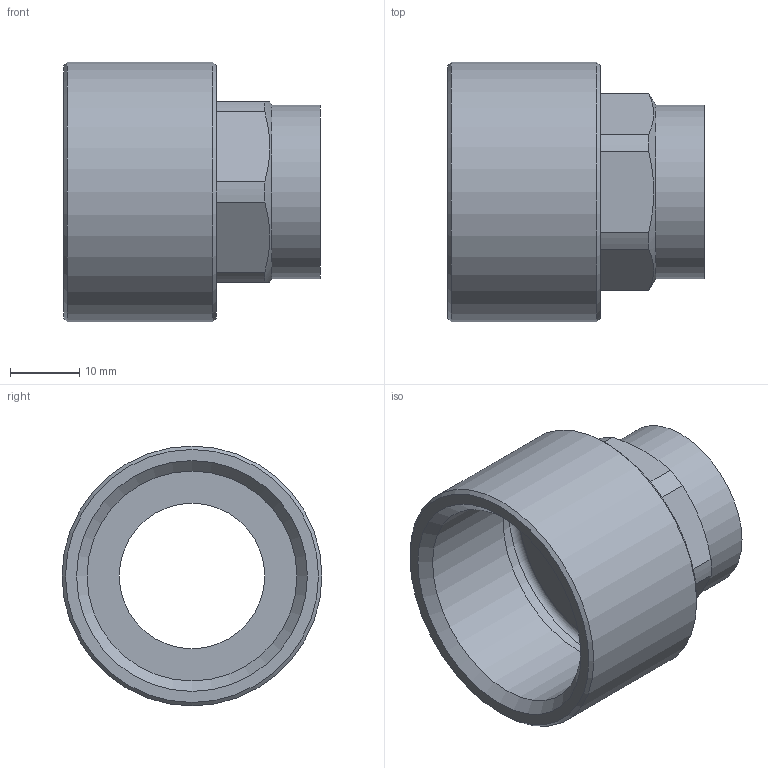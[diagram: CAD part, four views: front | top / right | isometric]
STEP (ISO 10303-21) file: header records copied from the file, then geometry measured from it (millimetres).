
FILE_DESCRIPTION((''),'2;1');
FILE_NAME('C:\Documents and Settings\pajchrowski\Desktop\STEP\14270_22-1(2).stp','2009-02-02T13:18:09',('pajchrowski'),(''),'Autodesk Inventor 2009','Autodesk Inventor 2009','');
FILE_SCHEMA(('AUTOMOTIVE_DESIGN { 1 0 10303 214 1 1 1 1 }'));
Length unit declared in the file: millimetre
Products named in the file (1): 14270_22-1(2)
Bounding box: 37 x 37.5 x 37.5 mm (x, y, z)
Volume: 11095.2 mm3; surface area: 8443.1 mm2
Topology: 1 solids, 1 shells, 29 faces, 65 edges, 41 vertices
Faces by surface type: cylinder 12, plane 11, cone 5, torus 1
Full cylindrical faces by diameter (mm): 21 x1, 22 x1, 25 x1, 30.291 x1, 33.249 x1, 37.5 x1
Entity records: 766 total; most frequent: CARTESIAN_POINT 134, DIRECTION 134, ORIENTED_EDGE 104, AXIS2_PLACEMENT_3D 58, EDGE_CURVE 52, EDGE_LOOP 46, VERTEX_POINT 40, FACE_OUTER_BOUND 29
